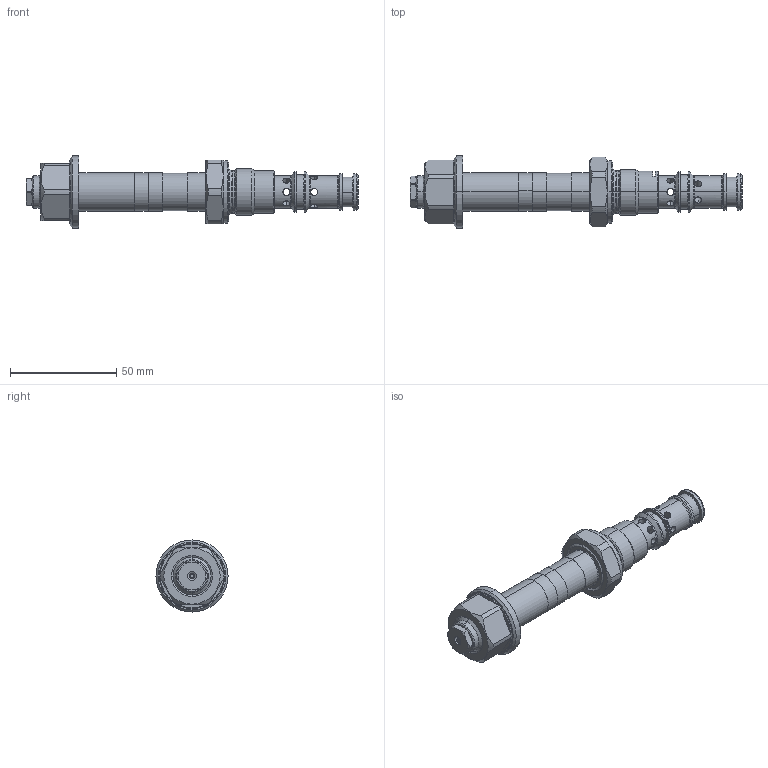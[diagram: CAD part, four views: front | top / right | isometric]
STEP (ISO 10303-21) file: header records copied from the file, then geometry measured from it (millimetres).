
FILE_DESCRIPTION (( 'STEP AP214' ), '1' );
FILE_NAME ('MQBPM22.STEP', '2014-07-14T12:04:18', ( '' ), ( '' ), 'SwSTEP 2.0', 'SolidWorks 2014', '' );
FILE_SCHEMA (( 'AUTOMOTIVE_DESIGN' ));
Length unit declared in the file: millimetre
Products named in the file (2): MQBPM22
Bounding box: 156.6 x 34 x 34 mm (x, y, z)
Volume: 50933 mm3; surface area: 22887.5 mm2
Topology: 10 solids, 10 shells, 438 faces, 1001 edges, 593 vertices
Faces by surface type: cylinder 167, cone 97, torus 80, plane 78, bspline 16
Entity records: 18547 total; most frequent: CARTESIAN_POINT 3722, DIRECTION 2213, ORIENTED_EDGE 1998, EDGE_CURVE 999, AXIS2_PLACEMENT_3D 959, VERTEX_POINT 593, CIRCLE 535, EDGE_LOOP 488
